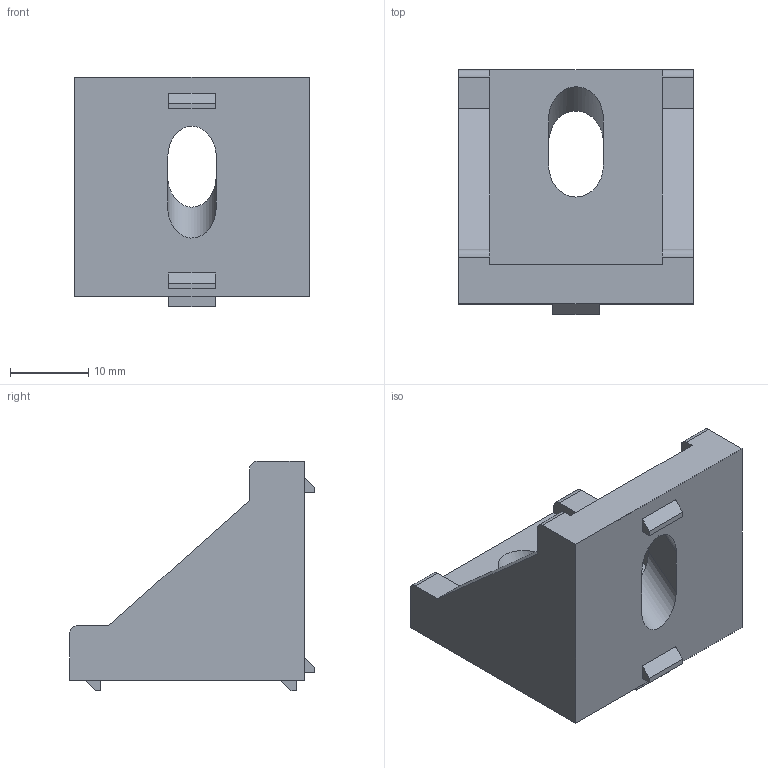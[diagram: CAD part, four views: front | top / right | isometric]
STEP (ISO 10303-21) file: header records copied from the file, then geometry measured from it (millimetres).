
FILE_DESCRIPTION (( 'STEP AP203' ), '1' );
FILE_NAME ('LIMA-GE30X30-8.STEP', '2018-03-15T12:44:36', ( '' ), ( '' ), 'SwSTEP 2.0', 'SolidWorks 2013', '' );
FILE_SCHEMA (( 'CONFIG_CONTROL_DESIGN' ));
Length unit declared in the file: millimetre
Products named in the file (1): LIMA-GE30X30-8
Bounding box: 30 x 31.3 x 29.3 mm (x, y, z)
Volume: 9054.9 mm3; surface area: 4971.4 mm2
Topology: 1 solids, 1 shells, 50 faces, 132 edges, 88 vertices
Faces by surface type: plane 40, cylinder 10
Entity records: 1609 total; most frequent: CARTESIAN_POINT 307, ORIENTED_EDGE 264, DIRECTION 230, EDGE_CURVE 132, VECTOR 112, LINE 112, VERTEX_POINT 88, AXIS2_PLACEMENT_3D 59
